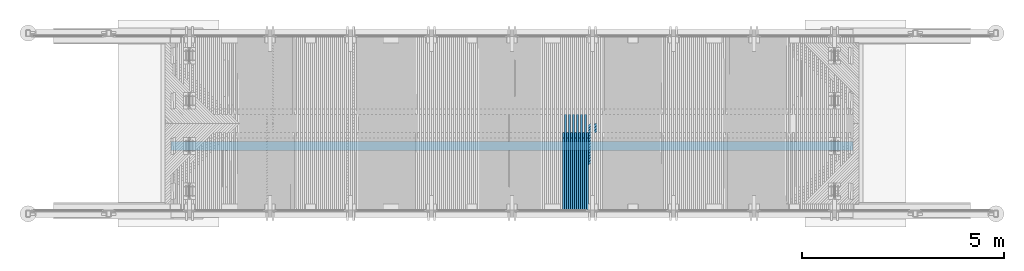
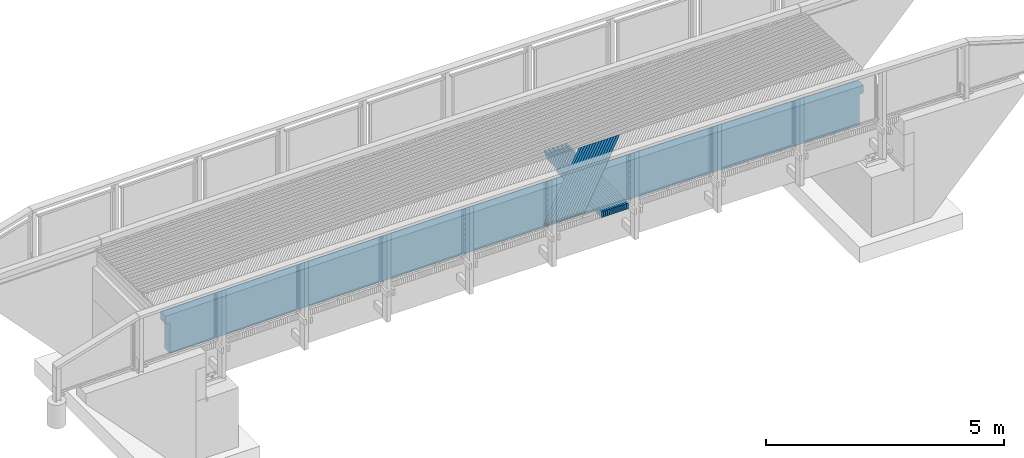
# One storey, part 31 of 65: 28 beams.
"""IFC2X3 building model written with IfcOpenShell, lengths in millimetres."""

import ifcopenshell
import ifcopenshell.guid

model = None  # the IFC model being written
_history = None  # IfcOwnerHistory: only IFC2X3 demands one
_inside = {}  # id of a spatial element -> (the spatial element, [elements in it])
_under = {}  # id of a project, library or spatial element -> (it, [spatial elements below it])
_declared = {}  # id of a project -> (the project, [libraries it declares])
_typed = {}  # id of a type object -> (the type object, [elements of that type])
_made_of = {}  # id of a material, layer set ... -> (it, [elements and type objects made of it])


def new_model(schema):
    """Start an empty IFC model of exactly this schema.

    Asked for "IFC4X3", IfcOpenShell would pick the latest addendum, in which some entities
    have other attributes; the version numbers below select the first issue.
    IFC2X3 requires an IfcOwnerHistory on every rooted entity: one is made here for all.
    """
    global model, _history
    if schema == "IFC4X3":
        model = ifcopenshell.file(schema_version=(4, 3, 0, 0))
    else:
        model = ifcopenshell.file(schema=schema)
    _inside.clear()
    _under.clear()
    _declared.clear()
    _typed.clear()
    _made_of.clear()
    _history = None
    if model.schema == "IFC2X3":
        org = make("IfcOrganization", Name="unknown")
        user = make(
            "IfcPersonAndOrganization",
            ThePerson=make("IfcPerson", FamilyName="unknown"),
            TheOrganization=org,
        )
        app = make(
            "IfcApplication",
            ApplicationDeveloper=org,
            Version="unknown",
            ApplicationFullName="unknown",
            ApplicationIdentifier="unknown",
        )
        _history = make(
            "IfcOwnerHistory",
            OwningUser=user,
            OwningApplication=app,
            ChangeAction="ADDED",
            CreationDate=0,
        )
    return model


def make(cls, **values):
    """One entity of the class cls with the attributes given. An attribute that is None is left unset."""
    return model.create_entity(
        cls, **{name: value for name, value in values.items() if value is not None}
    )


def rooted(cls, **values):
    """An entity with a GlobalId (a new one), such as an element, a storey or a relation."""
    return make(cls, GlobalId=ifcopenshell.guid.new(), OwnerHistory=_history, **values)


def si_unit(unit_type, name, prefix=None):
    """IfcSIUnit, for example si_unit("LENGTHUNIT", "METRE", prefix="MILLI")."""
    return make("IfcSIUnit", UnitType=unit_type, Prefix=prefix, Name=name)


def assignment(units):
    """IfcUnitAssignment: the units of a project."""
    return None if units is None else make("IfcUnitAssignment", Units=units)


def point(xyz):
    """IfcCartesianPoint."""
    return None if xyz is None else make("IfcCartesianPoint", Coordinates=xyz)


def direction(xyz):
    """IfcDirection."""
    return None if xyz is None else make("IfcDirection", DirectionRatios=xyz)


def frame(location, z_axis=None, x_axis=None):
    """IfcAxis2Placement3D, a coordinate frame: its origin and axes. An axis left out is left unset."""
    return make(
        "IfcAxis2Placement3D",
        Location=point(location),
        Axis=direction(z_axis),
        RefDirection=direction(x_axis),
    )


def origin_with_axes():
    """The frame at (0, 0, 0) with the z axis (0, 0, 1) and the x axis (1, 0, 0) written out."""
    return frame((0.0, 0.0, 0.0), z_axis=(0.0, 0.0, 1.0), x_axis=(1.0, 0.0, 0.0))


def place(relative_to, where):
    """IfcLocalPlacement: puts the frame where relative to a parent placement (None: the world)."""
    return make(
        "IfcLocalPlacement", PlacementRelTo=relative_to, RelativePlacement=where
    )


def context(
    kind, dimensions, precision=None, world=None, true_north=None, identifier=None
):
    """IfcGeometricRepresentationContext, for example the 3D "Model" context."""
    return make(
        "IfcGeometricRepresentationContext",
        ContextIdentifier=identifier,
        ContextType=kind,
        CoordinateSpaceDimension=dimensions,
        Precision=precision,
        WorldCoordinateSystem=world,
        TrueNorth=true_north,
    )


def subcontext(parent, identifier, kind, view, scale=None):
    """IfcGeometricRepresentationSubContext, for example "Body" below "Model"."""
    return make(
        "IfcGeometricRepresentationSubContext",
        ContextIdentifier=identifier,
        ContextType=kind,
        ParentContext=parent,
        TargetScale=scale,
        TargetView=view,
    )


def project(units=None, contexts=None):
    """IfcProject with its units and contexts."""
    return rooted(
        "IfcProject",
        Name="project",
        RepresentationContexts=contexts,
        UnitsInContext=assignment(units),
    )


def spatial(cls, under=None, at=None, **own):
    """A site, building, storey or space (cls), placed at a placement, below another one or the project."""
    s = rooted(cls, ObjectPlacement=at, **own)
    if under is not None:
        _under.setdefault(under.id(), (under, []))[1].append(s)
    return s


def faces_of(points, faces, orient=None, outer=None):
    """IfcFace entities. A face is a list of loops; a loop is a list of indices into points, from 0.

    orient and outer hold one flag for each loop. By default every Orientation is true, the
    first loop of a face is its IfcFaceOuterBound and the others are IfcFaceBound.
    """
    made = []
    for i, loops in enumerate(faces):
        bounds = []
        for j, loop in enumerate(loops):
            is_outer = j == 0 if outer is None else outer[i][j]
            bounds.append(
                make(
                    "IfcFaceOuterBound" if is_outer else "IfcFaceBound",
                    Bound=make("IfcPolyLoop", Polygon=[points[k] for k in loop]),
                    Orientation=True if orient is None else orient[i][j],
                )
            )
        made.append(make("IfcFace", Bounds=bounds))
    return made


def faceted_brep(points, faces, orient=None, outer=None, voids=None):
    """IfcFacetedBrep: a solid bounded by flat faces; with voids (closed shells), ...WithVoids."""
    shared = [point(p) for p in points]
    hull = make("IfcClosedShell", CfsFaces=faces_of(shared, faces, orient, outer))
    if voids is None:
        return make("IfcFacetedBrep", Outer=hull)
    return make(
        "IfcFacetedBrepWithVoids",
        Outer=hull,
        Voids=[
            make(cls, CfsFaces=faces_of(shared, fs, o, b)) for cls, fs, o, b in voids
        ],
    )


def shape(context_of_items, identifier, shape_type, items):
    """IfcShapeRepresentation: the items that make up one representation, for example the "Body"."""
    return make(
        "IfcShapeRepresentation",
        ContextOfItems=context_of_items,
        RepresentationIdentifier=identifier,
        RepresentationType=shape_type,
        Items=items,
    )


def material(Name=None, Category=None):
    """IfcMaterial."""
    return make("IfcMaterial", Name=Name, Category=Category)


def made_of(thing, what):
    """Note that an element or type object is made of a material, layer set ...; save() writes the relation."""
    if what is not None:
        _made_of.setdefault(what.id(), (what, []))[1].append(thing)
    return thing


def type_object(cls, material=None, **own):
    """A type object (cls), such as IfcWallType, which elements share."""
    return made_of(rooted(cls, **own), material)


def element(
    cls,
    number,
    at=None,
    inside=None,
    cuts=None,
    type_object=None,
    material=None,
    context=None,
    identifier="Body",
    shape_type=None,
    held_by="IfcProductDefinitionShape",
    body=None,
    shapes=None,
    **own,
):
    """One element of the class cls, such as IfcWall. Its Tag is "e" and its number.

    at: its placement. inside: the storey or other place that contains it. cuts: it is an
    opening in that element (IfcRelVoidsElement). A single representation is given by context,
    identifier, shape_type and body (its items); several are given by shapes. held_by: the class
    of the entity that holds the representations. save() writes the other relations.
    """
    e = rooted(cls, Tag="e%d" % number, ObjectPlacement=at, **own)
    if body is not None:
        shapes = [shape(context, identifier, shape_type, body)]
    if shapes is not None:
        e.Representation = make(held_by, Representations=shapes)
    if inside is not None:
        _inside.setdefault(inside.id(), (inside, []))[1].append(e)
    if cuts is not None:
        rooted(
            "IfcRelVoidsElement", RelatingBuildingElement=cuts, RelatedOpeningElement=e
        )
    if type_object is not None:
        _typed.setdefault(type_object.id(), (type_object, []))[1].append(e)
    return made_of(e, material)


def aggregate(whole, parts):
    """IfcRelAggregates: a whole, such as a stair, and the parts it consists of."""
    return rooted("IfcRelAggregates", RelatingObject=whole, RelatedObjects=parts)


def save(model, path):
    """Write the relations noted so far, then the file.

    IfcRelAggregates (storeys below a building ...), IfcRelContainedInSpatialStructure (elements
    in a storey), IfcRelDefinesByType, IfcRelAssociatesMaterial and IfcRelDeclares: one each for
    every whole, place, type object, material and project.
    """
    for whole, parts in _under.values():
        aggregate(whole, parts)
    for where, things in _inside.values():
        rooted(
            "IfcRelContainedInSpatialStructure",
            RelatedElements=things,
            RelatingStructure=where,
        )
    for kind, things in _typed.values():
        rooted("IfcRelDefinesByType", RelatedObjects=things, RelatingType=kind)
    for what, things in _made_of.values():
        rooted("IfcRelAssociatesMaterial", RelatedObjects=things, RelatingMaterial=what)
    for by, libraries in _declared.values():
        rooted("IfcRelDeclares", RelatingContext=by, RelatedDefinitions=libraries)
    model.write(path)


model = new_model("IFC2X3")

# Units and contexts
model_context = context("Model", 3, precision=1e-05, world=origin_with_axes())
body_context = subcontext(model_context, "Body", "Model", "MODEL_VIEW")
ifc_project = project(units=[si_unit("LENGTHUNIT", "METRE", prefix="MILLI"), si_unit("AREAUNIT", "SQUARE_METRE"), si_unit("VOLUMEUNIT", "CUBIC_METRE"), si_unit("MASSUNIT", "GRAM", prefix="KILO"), si_unit("TIMEUNIT", "SECOND"), si_unit("PLANEANGLEUNIT", "RADIAN"), si_unit("SOLIDANGLEUNIT", "STERADIAN"), si_unit("THERMODYNAMICTEMPERATUREUNIT", "DEGREE_CELSIUS"), si_unit("LUMINOUSINTENSITYUNIT", "LUMEN")], contexts=[model_context])

# Site, building, storey
site_placement = place(None, origin_with_axes())
site = spatial("IfcSite", under=ifc_project, at=site_placement, Name="Undefined", CompositionType="ELEMENT")
building_placement = place(site_placement, origin_with_axes())
building = spatial("IfcBuilding", under=site, at=building_placement, Name="Undefined", CompositionType="ELEMENT")
storey_placement = place(building_placement, origin_with_axes())
storey = spatial("IfcBuildingStorey", under=building, at=storey_placement, Name="Undefined", CompositionType="ELEMENT", Elevation=0.0)

# Beams
ifc_material = material(Name="TIMBER/Timber_Undefined")
beam_type_1 = type_object("IfcBeamType", Name="50*50", PredefinedType="NOTDEFINED")
for number, where, z_axis, x_axis, name in (
    (1, (10894.0405199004, 22364.5001003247, 3229.16691949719), (0.707044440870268, -0.706981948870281, -0.0162690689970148), (-0.707162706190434, -0.706948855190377, -0.0120092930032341), "BEAM"),
    (2, (10823.3170835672, 22364.5001003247, 3229.50270179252), (0.70704634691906, -0.706981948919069, -0.0161860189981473), (-0.707161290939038, -0.706948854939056, -0.0120923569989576), "BEAM"),
    (3, (10752.5936082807, 22364.5001003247, 3229.83017686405), (0.70704824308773, -0.706981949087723, -0.0161029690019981), (-0.707159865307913, -0.706948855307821, -0.0121754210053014), "BEAM"),
    (4, (10681.8700950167, 22364.5001003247, 3230.14934470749), (0.707050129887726, -0.706981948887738, -0.0160199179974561), (-0.707158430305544, -0.706948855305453, -0.0122584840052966), "BEAM"),
    (5, (10611.1465447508, 22364.5001003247, 3230.46020531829), (0.707052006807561, -0.70698194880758, -0.0159368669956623), (-0.707156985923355, -0.706948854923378, -0.0123415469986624), "BEAM"),
    (6, (10540.422958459, 22364.5001003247, 3230.76275869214), (0.707053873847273, -0.70698194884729, -0.0158538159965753), (-0.707155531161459, -0.706948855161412, -0.0124246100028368), "BEAM"),
    (7, (10469.6993371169, 22364.5001003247, 3231.05700482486), (0.707055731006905, -0.706981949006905, -0.0157707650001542), (-0.707154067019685, -0.706948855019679, -0.0125076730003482), "BEAM"),
    (8, (10398.9756817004, 22364.5001003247, 3231.34294371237), (0.707057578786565, -0.706981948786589, -0.0156877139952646), (-0.707152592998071, -0.706948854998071, -0.0125907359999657), "BEAM"),
    (9, (10328.2519931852, 22364.5001003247, 3231.62057535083), (0.707059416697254, -0.706981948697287, -0.0156046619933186), (-0.707151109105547, -0.706948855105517, -0.0126737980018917), "BEAM"),
    (10, (10257.5282725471, 22364.5001003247, 3231.88989973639), (0.707061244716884, -0.706981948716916, -0.0155216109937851), (-0.707149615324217, -0.706948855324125, -0.0127568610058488), "BEAM"),
    (11, (10186.8045207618, 22364.5001003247, 3232.15091686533), (0.707063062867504, -0.70698194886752, -0.0154385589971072), (-0.707148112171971, -0.706948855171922, -0.0128399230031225), "BEAM"),
    (12, (10116.0807388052, 22364.5001003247, 3232.40362673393), (0.707064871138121, -0.706981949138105, -0.0153555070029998), (-0.707146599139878, -0.706948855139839, -0.0129229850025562), "BEAM"),
    (13, (10045.356927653, 22364.5001003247, 3232.64802933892), (0.707066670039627, -0.706981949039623, -0.0152724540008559), (-0.707145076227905, -0.706948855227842, -0.0130060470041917), "BEAM"),
    (14, (9974.63308828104, 22364.5001003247, 3232.8841246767), (0.707068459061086, -0.706981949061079, -0.0151894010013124), (-0.707143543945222, -0.706948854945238, -0.0130891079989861), "BEAM"),
):
    element("IfcBeam", number, at=place(storey_placement, frame(where, z_axis=z_axis, x_axis=x_axis)), inside=storey, type_object=beam_type_1, material=ifc_material, Name=name, ObjectType="50*50", context=body_context, shape_type="Brep", body=[
        faceted_brep([(24.8942457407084, 25.0000000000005, -25.0000000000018), (-25.0086637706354, 24.9999999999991, 25.0), (2804.3406783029, 25.0, 25.0000000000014), (2854.34301907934, 24.9999999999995, -25.0), (-26.4222658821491, -25.0000000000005, 25.0), (2802.92643296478, -25.0, 25.0000000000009), (23.4806436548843, -24.9999999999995, -25.0000000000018), (2852.92877373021, -25.0000000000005, -24.9999999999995)], [[[0, 1, 2, 3]], [[1, 4, 5, 2]], [[4, 6, 7, 5]], [[6, 0, 3, 7]], [[5, 7, 3, 2]], [[6, 4, 1, 0]]]),
    ])
beam_type_2 = type_object("IfcBeamType", Name="150*50", PredefinedType="NOTDEFINED")
for number, where, z_axis, x_axis, name in (
    (15, (9875.54866800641, 20216.5046076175, 3090.22816959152), (0.00303469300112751, -0.0199960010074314, 0.999795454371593), (6.06930000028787e-05, 0.999800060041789, 0.0199959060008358), "BEAM"),
    (16, (9775.52909420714, 20216.5046076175, 3090.53149263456), (0.00286857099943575, -0.0199960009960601, 0.999795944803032), (5.73710000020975e-05, 0.999800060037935, 0.0199959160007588), "BEAM"),
):
    element("IfcBeam", number, at=place(storey_placement, frame(where, z_axis=z_axis, x_axis=x_axis)), inside=storey, type_object=beam_type_2, material=ifc_material, Name=name, ObjectType="150*50", context=body_context, shape_type="Brep", body=[
        faceted_brep([(-1.6778358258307e-07, -24.9999999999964, -74.9999999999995), (1.67790858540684e-07, -24.9999999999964, 75.0000000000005), (1.67790858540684e-07, 25.0000000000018, 74.9999999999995), (-1.6778358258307e-07, 25.0000000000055, -75.0), (1789.96936433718, -25.0000000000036, 74.9999999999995), (1789.96936408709, 24.9999999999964, 75.0), (1928.42646328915, 24.9999999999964, -75.0), (1928.42646353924, -25.0, -75.0000000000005)], [[[0, 1, 2, 3]], [[2, 1, 4, 5]], [[3, 2, 5, 6]], [[0, 3, 6, 7]], [[1, 0, 7, 4]], [[6, 5, 4, 7]]]),
    ])
beam_1_placement = place(storey_placement, frame((9825.54889674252, 20216.5046076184, 3090.37966862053), z_axis=(0.00303469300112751, -0.0199960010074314, 0.999795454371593), x_axis=(6.06930000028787e-05, 0.999800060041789, 0.0199959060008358)))
element("IfcBeam", 17, at=beam_1_placement, inside=storey, type_object=beam_type_2, material=ifc_material, Name="BEAM", ObjectType="150*50", context=body_context, shape_type="Brep", body=[
    faceted_brep([(-1.6778358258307e-07, -24.9999999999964, -74.9999999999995), (1.67790858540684e-07, -24.9999999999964, 75.0000000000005), (1.67790858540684e-07, 25.0000000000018, 74.9999999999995), (-1.6778358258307e-07, 25.0000000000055, -75.0), (2375.00494422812, 25.0000000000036, -75.0), (2375.00494447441, -24.9999999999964, -74.9999999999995), (2510.59248714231, -24.9999999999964, 60.5875430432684), (2150.42514405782, -24.9999999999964, 75.0000000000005), (2150.42515052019, 25.0000000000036, 74.9999999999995), (2510.59248715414, 25.0000000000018, 60.5875433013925)], [[[0, 1, 2, 3]], [[0, 3, 4, 5]], [[1, 0, 5, 6, 7]], [[2, 1, 7, 8]], [[4, 3, 2, 8, 9]], [[5, 4, 9, 6]], [[6, 9, 8, 7]]]),
])
beam_2_placement = place(storey_placement, frame((9675.50947138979, 20216.5046076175, 3090.81819688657), z_axis=(0.00270244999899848, -0.019996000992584, 0.999796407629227), x_axis=(5.40480000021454e-05, 0.999800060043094, 0.0199959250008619)))
element("IfcBeam", 18, at=beam_2_placement, inside=storey, type_object=beam_type_2, material=ifc_material, Name="BEAM", ObjectType="150*50", context=body_context, shape_type="Brep", body=[
    faceted_brep([(-1.6778358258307e-07, -24.9999999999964, -74.9999999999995), (1.67790858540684e-07, -24.9999999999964, 75.0000000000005), (1.67790858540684e-07, 25.0000000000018, 74.9999999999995), (-1.6778358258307e-07, 25.0000000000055, -75.0), (1789.96936433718, -25.0000000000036, 74.9999999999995), (1789.96936408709, 24.9999999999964, 75.0), (1928.42646328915, 24.9999999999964, -75.0), (1928.42646353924, -25.0, -75.0000000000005)], [[[0, 1, 2, 3]], [[2, 1, 4, 5]], [[3, 2, 5, 6]], [[0, 3, 6, 7]], [[1, 0, 7, 4]], [[6, 5, 4, 7]]]),
])
beam_3_placement = place(storey_placement, frame((9725.52929846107, 20216.5046076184, 3090.67468393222), z_axis=(0.00286857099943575, -0.0199960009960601, 0.999795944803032), x_axis=(5.73710000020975e-05, 0.999800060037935, 0.0199959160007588)))
element("IfcBeam", 19, at=beam_3_placement, inside=storey, type_object=beam_type_2, material=ifc_material, Name="BEAM", ObjectType="150*50", context=body_context, shape_type="Brep", body=[
    faceted_brep([(-1.6778358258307e-07, -24.9999999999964, -74.9999999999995), (1.67790858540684e-07, -24.9999999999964, 75.0000000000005), (1.67790858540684e-07, 25.0000000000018, 74.9999999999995), (-1.6778358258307e-07, 25.0000000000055, -75.0), (2375.00494422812, 25.0000000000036, -75.0), (2375.00494447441, -24.9999999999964, -74.9999999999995), (2510.59248714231, -24.9999999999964, 60.5875430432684), (2150.42514405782, -24.9999999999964, 75.0000000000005), (2150.42515052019, 25.0000000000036, 74.9999999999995), (2510.59248715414, 25.0000000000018, 60.5875433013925)], [[[0, 1, 2, 3]], [[0, 3, 4, 5]], [[1, 0, 5, 6, 7]], [[2, 1, 7, 8]], [[4, 3, 2, 8, 9]], [[5, 4, 9, 6]], [[6, 9, 8, 7]]]),
])
beam_4_placement = place(storey_placement, frame((9575.48980231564, 20216.5046076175, 3091.08828233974), z_axis=(0.0025363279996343, -0.0199960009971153, 0.999796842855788), x_axis=(5.07260000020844e-05, 0.999800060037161, 0.0199959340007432)))
element("IfcBeam", 20, at=beam_4_placement, inside=storey, type_object=beam_type_2, material=ifc_material, Name="BEAM", ObjectType="150*50", context=body_context, shape_type="Brep", body=[
    faceted_brep([(-1.6778358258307e-07, -24.9999999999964, -74.9999999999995), (1.67790858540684e-07, -24.9999999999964, 75.0000000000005), (1.67790858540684e-07, 25.0000000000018, 74.9999999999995), (-1.6778358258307e-07, 25.0000000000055, -75.0), (1789.96936433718, -25.0000000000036, 74.9999999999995), (1789.96936408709, 24.9999999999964, 75.0), (1928.42646328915, 24.9999999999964, -75.0), (1928.42646353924, -25.0, -75.0000000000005)], [[[0, 1, 2, 3]], [[2, 1, 4, 5]], [[3, 2, 5, 6]], [[0, 3, 6, 7]], [[1, 0, 7, 4]], [[6, 5, 4, 7]]]),
])
beam_5_placement = place(storey_placement, frame((9625.5096525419, 20216.5046076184, 3090.9530804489), z_axis=(0.00270244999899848, -0.019996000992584, 0.999796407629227), x_axis=(5.40480000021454e-05, 0.999800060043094, 0.0199959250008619)))
element("IfcBeam", 21, at=beam_5_placement, inside=storey, type_object=beam_type_2, material=ifc_material, Name="BEAM", ObjectType="150*50", context=body_context, shape_type="Brep", body=[
    faceted_brep([(-1.6778358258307e-07, -24.9999999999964, -74.9999999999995), (1.67790858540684e-07, -24.9999999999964, 75.0000000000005), (1.67790858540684e-07, 25.0000000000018, 74.9999999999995), (-1.6778358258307e-07, 25.0000000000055, -75.0), (2375.00494422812, 25.0000000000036, -75.0), (2375.00494447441, -24.9999999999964, -74.9999999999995), (2510.59248714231, -24.9999999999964, 60.5875430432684), (2150.42514405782, -24.9999999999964, 75.0000000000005), (2150.42515052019, 25.0000000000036, 74.9999999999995), (2510.59248715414, 25.0000000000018, 60.5875433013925)], [[[0, 1, 2, 3]], [[0, 3, 4, 5]], [[1, 0, 5, 6, 7]], [[2, 1, 7, 8]], [[4, 3, 2, 8, 9]], [[5, 4, 9, 6]], [[6, 9, 8, 7]]]),
])
beam_6_placement = place(storey_placement, frame((9475.470089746, 20216.5046076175, 3091.34174898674), z_axis=(0.00237020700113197, -0.0199960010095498, 0.999797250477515), x_axis=(4.74040000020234e-05, 0.999800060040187, 0.0199959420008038)))
element("IfcBeam", 22, at=beam_6_placement, inside=storey, type_object=beam_type_2, material=ifc_material, Name="BEAM", ObjectType="150*50", context=body_context, shape_type="Brep", body=[
    faceted_brep([(-1.6778358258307e-07, -24.9999999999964, -74.9999999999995), (1.67790858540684e-07, -24.9999999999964, 75.0000000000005), (1.67790858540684e-07, 25.0000000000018, 74.9999999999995), (-1.6778358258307e-07, 25.0000000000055, -75.0), (1789.96936433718, -25.0000000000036, 74.9999999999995), (1789.96936408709, 24.9999999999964, 75.0), (1928.42646328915, 24.9999999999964, -75.0), (1928.42646353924, -25.0, -75.0000000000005)], [[[0, 1, 2, 3]], [[2, 1, 4, 5]], [[3, 2, 5, 6]], [[0, 3, 6, 7]], [[1, 0, 7, 4]], [[6, 5, 4, 7]]]),
])
beam_7_placement = place(storey_placement, frame((9525.48996174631, 20216.5046076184, 3091.21485816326), z_axis=(0.0025363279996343, -0.0199960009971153, 0.999796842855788), x_axis=(5.07260000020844e-05, 0.999800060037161, 0.0199959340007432)))
element("IfcBeam", 23, at=beam_7_placement, inside=storey, type_object=beam_type_2, material=ifc_material, Name="BEAM", ObjectType="150*50", context=body_context, shape_type="Brep", body=[
    faceted_brep([(-1.6778358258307e-07, -24.9999999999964, -74.9999999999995), (1.67790858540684e-07, -24.9999999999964, 75.0000000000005), (1.67790858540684e-07, 25.0000000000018, 74.9999999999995), (-1.6778358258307e-07, 25.0000000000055, -75.0), (2375.00494422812, 25.0000000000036, -75.0), (2375.00494447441, -24.9999999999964, -74.9999999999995), (2510.59248714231, -24.9999999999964, 60.5875430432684), (2150.42514405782, -24.9999999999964, 75.0000000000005), (2150.42515052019, 25.0000000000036, 74.9999999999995), (2510.59248715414, 25.0000000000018, 60.5875433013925)], [[[0, 1, 2, 3]], [[0, 3, 4, 5]], [[1, 0, 5, 6, 7]], [[2, 1, 7, 8]], [[4, 3, 2, 8, 9]], [[5, 4, 9, 6]], [[6, 9, 8, 7]]]),
])
beam_8_placement = place(storey_placement, frame((9375.45033644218, 20216.5046076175, 3091.57859682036), z_axis=(0.00220408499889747, -0.0199960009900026, 0.999797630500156), x_axis=(4.4081000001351e-05, 0.999800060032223, 0.0199959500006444)))
element("IfcBeam", 24, at=beam_8_placement, inside=storey, type_object=beam_type_2, material=ifc_material, Name="BEAM", ObjectType="150*50", context=body_context, shape_type="Brep", body=[
    faceted_brep([(-1.6778358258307e-07, -24.9999999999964, -74.9999999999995), (1.67790858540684e-07, -24.9999999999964, 75.0000000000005), (1.67790858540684e-07, 25.0000000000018, 74.9999999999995), (-1.6778358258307e-07, 25.0000000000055, -75.0), (1789.96936433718, -25.0000000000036, 74.9999999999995), (1789.96936408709, 24.9999999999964, 75.0), (1928.42646328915, 24.9999999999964, -75.0), (1928.42646353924, -25.0, -75.0000000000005)], [[[0, 1, 2, 3]], [[2, 1, 4, 5]], [[3, 2, 5, 6]], [[0, 3, 6, 7]], [[1, 0, 7, 4]], [[6, 5, 4, 7]]]),
])
beam_9_placement = place(storey_placement, frame((9425.47022883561, 20216.5046076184, 3091.46001706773), z_axis=(0.00237020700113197, -0.0199960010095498, 0.999797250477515), x_axis=(4.74040000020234e-05, 0.999800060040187, 0.0199959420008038)))
element("IfcBeam", 25, at=beam_9_placement, inside=storey, type_object=beam_type_2, material=ifc_material, Name="BEAM", ObjectType="150*50", context=body_context, shape_type="Brep", body=[
    faceted_brep([(-1.6778358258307e-07, -24.9999999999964, -74.9999999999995), (1.67790858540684e-07, -24.9999999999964, 75.0000000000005), (1.67790858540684e-07, 25.0000000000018, 74.9999999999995), (-1.6778358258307e-07, 25.0000000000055, -75.0), (2375.00494422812, 25.0000000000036, -75.0), (2375.00494447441, -24.9999999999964, -74.9999999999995), (2510.59248714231, -24.9999999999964, 60.5875430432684), (2150.42514405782, -24.9999999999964, 75.0000000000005), (2150.42515052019, 25.0000000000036, 74.9999999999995), (2510.59248715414, 25.0000000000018, 60.5875433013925)], [[[0, 1, 2, 3]], [[0, 3, 4, 5]], [[1, 0, 5, 6, 7]], [[2, 1, 7, 8]], [[4, 3, 2, 8, 9]], [[5, 4, 9, 6]], [[6, 9, 8, 7]]]),
])
beam_10_placement = place(storey_placement, frame((9275.43054516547, 20216.5046076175, 3091.79882583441), z_axis=(0.00203796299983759, -0.0199960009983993, 0.999797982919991), x_axis=(4.07590000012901e-05, 0.999800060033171, 0.0199959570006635)))
element("IfcBeam", 26, at=beam_10_placement, inside=storey, type_object=beam_type_2, material=ifc_material, Name="BEAM", ObjectType="150*50", context=body_context, shape_type="Brep", body=[
    faceted_brep([(-1.6778358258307e-07, -24.9999999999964, -74.9999999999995), (1.67790858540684e-07, -24.9999999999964, 75.0000000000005), (1.67790858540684e-07, 25.0000000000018, 74.9999999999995), (-1.6778358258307e-07, 25.0000000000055, -75.0), (1789.96936433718, -25.0000000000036, 74.9999999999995), (1789.96936408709, 24.9999999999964, 75.0), (1928.42646328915, 24.9999999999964, -75.0), (1928.42646353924, -25.0, -75.0000000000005)], [[[0, 1, 2, 3]], [[2, 1, 4, 5]], [[3, 2, 5, 6]], [[0, 3, 6, 7]], [[1, 0, 7, 4]], [[6, 5, 4, 7]]]),
])
beam_11_placement = place(storey_placement, frame((9325.4504565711, 20216.5046076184, 3091.68855715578), z_axis=(0.00220408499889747, -0.0199960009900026, 0.999797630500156), x_axis=(4.4081000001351e-05, 0.999800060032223, 0.0199959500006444)))
element("IfcBeam", 27, at=beam_11_placement, inside=storey, type_object=beam_type_2, material=ifc_material, Name="BEAM", ObjectType="150*50", context=body_context, shape_type="Brep", body=[
    faceted_brep([(-1.6778358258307e-07, -24.9999999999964, -74.9999999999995), (1.67790858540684e-07, -24.9999999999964, 75.0000000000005), (1.67790858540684e-07, 25.0000000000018, 74.9999999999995), (-1.6778358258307e-07, 25.0000000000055, -75.0), (2375.00494422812, 25.0000000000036, -75.0), (2375.00494447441, -24.9999999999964, -74.9999999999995), (2510.59248714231, -24.9999999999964, 60.5875430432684), (2150.42520082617, -25.0000000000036, 75.0000000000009), (2150.42515052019, 25.0000000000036, 74.9999999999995), (2510.59248715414, 25.0000000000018, 60.5875433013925)], [[[0, 1, 2, 3]], [[0, 3, 4, 5]], [[1, 0, 5, 6, 7]], [[2, 1, 7, 8]], [[4, 3, 2, 8, 9]], [[5, 4, 9, 6]], [[8, 7, 6, 9]]]),
])
beam_type_3 = type_object("IfcBeamType", Name="990*215", PredefinedType="NOTDEFINED")
beam_12_placement = place(storey_placement, frame((243.613169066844, 21805.0, 2502.11879463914), z_axis=(0.0, 0.0, 1.0), x_axis=(1.0, 0.0, 0.0)))
element("IfcBeam", 28, at=beam_12_placement, inside=storey, type_object=beam_type_3, material=ifc_material, Name="PALKKI", ObjectType="990*215", context=body_context, shape_type="Brep", body=[
    faceted_brep([(16106.3868309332, 107.5, -494.790894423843), (16106.3868309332, -107.5, -494.790894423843), (16080.5342107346, -107.5, -494.790894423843), (15793.4597682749, -107.5, -494.790894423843), (15506.3868309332, -107.5, -494.958794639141), (15506.3868309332, 107.5, -494.958794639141), (15793.4597682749, 107.5, -494.790894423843), (16080.5342107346, 107.5, -494.790894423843), (16106.3868309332, 107.5, 285.209105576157), (16106.3868309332, -107.5, 285.209105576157), (16206.3868309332, 107.5, 285.209105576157), (16206.3868309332, -107.5, 285.209105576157), (16206.3868309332, 107.5, 485.682039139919), (16206.3868309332, -107.5, 485.682039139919), (-627.370013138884, 107.5, 486.625216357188), (-627.370013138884, -107.5, 486.625216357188), (-316.879497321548, -107.5, 490.87213125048), (-316.879497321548, 107.5, 490.87213125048), (-693.613169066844, -107.5, 485.684940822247), (-693.613169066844, -107.5, 285.209105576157), (-624.563039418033, -107.5, 285.209105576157), (-693.613169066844, 107.5, 485.684940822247), (-693.613169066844, 107.5, 285.209105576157), (-624.563039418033, 107.5, 285.209105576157), (-593.613169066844, 107.5, 285.209105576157), (-593.613169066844, -107.5, 285.209105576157), (-593.613169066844, 107.5, -494.790894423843), (-593.613169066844, -107.5, -494.790894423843), (-303.651924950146, -107.5, -494.790894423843), (-6.38683093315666, -107.5, 494.958794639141), (6.38683093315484, -107.5, -494.958794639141), (-6.38683093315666, 107.5, 494.958794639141), (6.38683093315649, 107.5, -494.790894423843), (304.107903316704, 107.5, 498.885205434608), (316.370645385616, 107.5, -491.038844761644), (-303.651924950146, 107.5, -494.790894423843), (316.370645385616, -107.5, -491.038844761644), (304.107903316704, -107.5, 498.885205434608), (614.604622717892, -107.5, 502.651362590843), (614.604622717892, 107.5, 502.651362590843), (626.356441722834, 107.5, -487.278884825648), (626.356441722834, -107.5, -487.278884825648), (936.344137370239, -107.5, -483.678915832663), (925.103244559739, -107.5, 506.257265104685), (925.103244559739, 107.5, 506.257265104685), (936.344137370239, 107.5, -483.678915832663), (1246.33364975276, 107.5, -480.238938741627), (1246.33364975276, -107.5, -480.238938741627), (1235.60368613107, -107.5, 509.702912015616), (1235.60368613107, 107.5, 509.702912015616), (1546.10586472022, 107.5, 512.988302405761), (1556.32489629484, 107.5, -476.958954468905), (1556.32489629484, -107.5, -476.958954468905), (1546.10586472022, -107.5, 512.988302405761), (1856.60969761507, -107.5, 516.113435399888), (1856.60969761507, 107.5, 516.113435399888), (1866.31779442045, 107.5, -473.838963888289), (1866.31779442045, -107.5, -473.838963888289), (2176.31226155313, -107.5, -470.878967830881), (2167.11510210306, -107.5, 519.078310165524), (2167.11510210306, 107.5, 519.078310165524), (2176.31226155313, 107.5, -470.878967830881), (2486.30821511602, 107.5, -468.078967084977), (2486.30821511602, -107.5, -468.078967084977), (2477.6219954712, -107.5, 521.882925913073), (2477.6219954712, 107.5, 521.882925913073), (2788.13029500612, 107.5, 524.527281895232), (2796.30557253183, 107.5, -465.438962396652), (2796.30557253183, -107.5, -465.438962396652), (2788.13029500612, -107.5, 524.527281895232), (3098.63991799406, -107.5, 527.011377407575), (3098.63991799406, 107.5, 527.011377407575), (3106.30425122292, 107.5, -462.958954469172), (3106.30425122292, -107.5, -462.958954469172), (3416.30416861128, -107.5, -460.638943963), (3409.15078172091, -107.5, 529.335211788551), (3409.15078172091, 107.5, 529.335211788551), (3416.30416861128, 107.5, -460.638943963), (3726.30524211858, 107.5, -458.478931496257), (3726.30524211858, -107.5, -458.478931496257), (3719.66280347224, -107.5, 531.49878441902), (3719.66280347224, 107.5, 531.49878441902), (4030.1759005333, 107.5, 533.502094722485), (4036.3073891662, 107.5, -456.478917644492), (4036.3073891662, -107.5, -456.478917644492), (4030.1759005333, -107.5, 533.502094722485), (4340.68999018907, -107.5, 535.345142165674), (4340.68999018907, 107.5, 535.345142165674), (4346.3105271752, 107.5, -454.638902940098), (4346.3105271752, -107.5, -454.638902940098), (4656.31457356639, -107.5, -452.958887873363), (4651.20498972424, -107.5, 537.027926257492), (4651.20498972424, 107.5, 537.027926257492), (4656.31457356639, 107.5, -452.958887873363), (4966.31944576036, 107.5, -451.438872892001), (4966.31944576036, -107.5, -451.438872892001), (4961.72081642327, -107.5, 538.550446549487), (4961.72081642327, 107.5, 538.550446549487), (5272.23738757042, 107.5, 539.912702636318), (5276.32506117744, 107.5, -450.078858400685), (5276.32506117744, -107.5, -450.078858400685), (5272.23738757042, -107.5, 539.912702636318), (5582.75462044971, -107.5, 541.114694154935), (5582.75462044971, 107.5, 541.114694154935), (5586.33133723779, 107.5, -448.878844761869), (5586.33133723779, -107.5, -448.878844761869), (5896.33819136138, -107.5, -447.838832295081), (5893.27243234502, -107.5, 542.156420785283), (5893.27243234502, 107.5, 542.156420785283), (5896.33819136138, 107.5, -447.838832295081), (6206.34554096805, 107.5, -446.958821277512), (6206.34554096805, -107.5, -446.958821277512), (6203.79074054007, -107.5, 543.037882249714), (6203.79074054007, 107.5, 543.037882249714), (6514.30946231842, 107.5, 543.759078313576), (6516.35330347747, 107.5, -446.238811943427), (6516.35330347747, -107.5, -446.238811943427), (6514.30946231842, -107.5, 543.759078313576), (6824.82851496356, -107.5, 544.320008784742), (6824.82851496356, 107.5, 544.320008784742), (6826.36139630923, 107.5, -445.678804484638), (6826.36139630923, -107.5, -445.678804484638), (7136.36973688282, -107.5, -445.278799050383), (7135.34781575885, -107.5, 544.720673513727), (7135.34781575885, 107.5, 544.720673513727), (7136.36973688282, 107.5, -445.278799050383), (7446.37824261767, 107.5, -445.038795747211), (7446.37824261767, -107.5, -445.038795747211), (7445.86728198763, -107.5, 544.961072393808), (7445.86728198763, 107.5, 544.961072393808), (7756.38683093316, 107.5, 545.041205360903), (7756.38683093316, 107.5, -444.958794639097), (7756.38683093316, -107.5, -444.958794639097), (7756.38683093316, -107.5, 545.041205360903), (8066.90637987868, -107.5, 544.961072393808), (8066.90637987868, 107.5, 544.961072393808), (8066.39541924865, 107.5, -445.038795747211), (8066.39541924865, -107.5, -445.038795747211), (8376.40392498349, -107.5, -445.278799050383), (8377.42584610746, -107.5, 544.720673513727), (8377.42584610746, 107.5, 544.720673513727), (8376.40392498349, 107.5, -445.278799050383), (8686.41226555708, 107.5, -445.678804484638), (8686.41226555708, -107.5, -445.678804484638), (8687.94514690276, -107.5, 544.320008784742), (8687.94514690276, 107.5, 544.320008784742), (8998.46419954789, 107.5, 543.759078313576), (8996.42035838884, 107.5, -446.238811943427), (8996.42035838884, -107.5, -446.238811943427), (8998.46419954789, -107.5, 543.759078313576), (9308.98292132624, -107.5, 543.037882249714), (9308.98292132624, 107.5, 543.037882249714), (9306.42812089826, 107.5, -446.958821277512), (9306.42812089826, -107.5, -446.958821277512), (9616.43547050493, -107.5, -447.838832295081), (9619.50122952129, -107.5, 542.156420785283), (9619.50122952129, 107.5, 542.156420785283), (9616.43547050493, 107.5, -447.838832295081), (9926.44232462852, 107.5, -448.878844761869), (9926.44232462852, -107.5, -448.878844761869), (9930.0190414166, -107.5, 541.114694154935), (9930.0190414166, 107.5, 541.114694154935), (10240.5362742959, 107.5, 539.912702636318), (10236.4486006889, 107.5, -450.078858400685), (10236.4486006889, -107.5, -450.078858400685), (10240.5362742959, -107.5, 539.912702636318), (10551.052845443, -107.5, 538.550446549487), (10551.052845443, 107.5, 538.550446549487), (10546.454216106, 107.5, -451.438872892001), (10546.454216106, -107.5, -451.438872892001), (10856.4590882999, -107.5, -452.958887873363), (10861.5686721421, -107.5, 537.027926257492), (10861.5686721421, 107.5, 537.027926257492), (10856.4590882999, 107.5, -452.958887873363), (11166.4631346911, 107.5, -454.638902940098), (11166.4631346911, -107.5, -454.638902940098), (11172.0836716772, -107.5, 535.345142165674), (11172.0836716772, 107.5, 535.345142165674), (11482.597761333, 107.5, 533.502094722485), (11476.4662727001, 107.5, -456.478917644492), (11476.4662727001, -107.5, -456.478917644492), (11482.597761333, -107.5, 533.502094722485), (11793.1108583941, -107.5, 531.49878441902), (11793.1108583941, 107.5, 531.49878441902), (11786.4684197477, 107.5, -458.478931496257), (11786.4684197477, -107.5, -458.478931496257), (12096.469493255, -107.5, -460.638943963), (12103.6228801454, -107.5, 529.335211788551), (12103.6228801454, 107.5, 529.335211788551), (12096.469493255, 107.5, -460.638943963), (12406.4694106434, 107.5, -462.958954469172), (12406.4694106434, -107.5, -462.958954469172), (12414.1337438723, -107.5, 527.011377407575), (12414.1337438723, 107.5, 527.011377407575), (12724.6433668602, 107.5, 524.527281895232), (12716.4680893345, 107.5, -465.438962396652), (12716.4680893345, -107.5, -465.438962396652), (12724.6433668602, -107.5, 524.527281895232), (13035.1516663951, -107.5, 521.882925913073), (13035.1516663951, 107.5, 521.882925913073), (13026.4654467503, 107.5, -468.078967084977), (13026.4654467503, -107.5, -468.078967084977), (13336.4614003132, -107.5, -470.878967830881), (13345.6585597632, -107.5, 519.078310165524), (13345.6585597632, 107.5, 519.078310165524), (13336.4614003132, 107.5, -470.878967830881), (13646.4558674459, 107.5, -473.838963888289), (13646.4558674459, -107.5, -473.838963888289), (13656.1639642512, -107.5, 516.113435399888), (13656.1639642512, 107.5, 516.113435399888), (13966.6677971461, 107.5, 512.988302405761), (13956.4487655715, 107.5, -476.958954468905), (13956.4487655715, -107.5, -476.958954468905), (13966.6677971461, -107.5, 512.988302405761), (14277.1699757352, -107.5, 509.702912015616), (14277.1699757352, 107.5, 509.702912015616), (14266.4400121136, 107.5, -480.238938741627), (14266.4400121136, -107.5, -480.238938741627), (14576.4295244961, -107.5, -483.678915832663), (14587.6704173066, -107.5, 506.257265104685), (14587.6704173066, 107.5, 506.257265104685), (14576.4295244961, 107.5, -483.678915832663), (14886.4172201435, 107.5, -487.278884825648), (14886.4172201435, -107.5, -487.278884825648), (14898.1690391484, -107.5, 502.651362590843), (14898.1690391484, 107.5, 502.651362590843), (15208.6657585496, 107.5, 498.885205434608), (15196.4030164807, 107.5, -491.038844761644), (15196.4030164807, -107.5, -491.038844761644), (15208.6657585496, -107.5, 498.885205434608), (15519.1604927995, -107.5, 494.958794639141), (15519.1604927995, 107.5, 494.958794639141), (15806.6537751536, -107.5, 491.180342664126), (15806.6537751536, 107.5, 491.180342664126), (16094.1452189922, -107.5, 487.264500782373), (16094.1452189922, 107.5, 487.264500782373)], [[[0, 1, 2, 3, 4, 5, 6, 7]], [[8, 9, 1, 0]], [[10, 11, 9, 8]], [[12, 13, 11, 10]], [[14, 15, 16, 17]], [[15, 18, 19, 20]], [[21, 22, 19, 18]], [[15, 14, 21, 18]], [[21, 14, 23, 22]], [[24, 25, 20, 19, 22, 23]], [[26, 27, 25, 24]], [[16, 15, 20, 25, 27, 28]], [[29, 16, 28, 30]], [[17, 16, 29, 31]], [[32, 31, 33, 34]], [[17, 31, 32, 35]], [[24, 23, 14, 17, 35, 26]], [[32, 30, 28, 27, 26, 35]], [[34, 36, 30, 32]], [[29, 30, 36, 37]], [[31, 29, 37, 33]], [[33, 37, 38, 39]], [[34, 33, 39, 40]], [[36, 34, 40, 41]], [[37, 36, 41, 38]], [[38, 41, 42, 43]], [[39, 38, 43, 44]], [[40, 39, 44, 45]], [[41, 40, 45, 42]], [[42, 45, 46, 47]], [[43, 42, 47, 48]], [[44, 43, 48, 49]], [[45, 44, 49, 46]], [[46, 49, 50, 51]], [[47, 46, 51, 52]], [[48, 47, 52, 53]], [[49, 48, 53, 50]], [[50, 53, 54, 55]], [[51, 50, 55, 56]], [[52, 51, 56, 57]], [[53, 52, 57, 54]], [[54, 57, 58, 59]], [[55, 54, 59, 60]], [[56, 55, 60, 61]], [[57, 56, 61, 58]], [[58, 61, 62, 63]], [[59, 58, 63, 64]], [[60, 59, 64, 65]], [[61, 60, 65, 62]], [[62, 65, 66, 67]], [[63, 62, 67, 68]], [[64, 63, 68, 69]], [[65, 64, 69, 66]], [[66, 69, 70, 71]], [[67, 66, 71, 72]], [[68, 67, 72, 73]], [[69, 68, 73, 70]], [[70, 73, 74, 75]], [[71, 70, 75, 76]], [[72, 71, 76, 77]], [[73, 72, 77, 74]], [[74, 77, 78, 79]], [[75, 74, 79, 80]], [[76, 75, 80, 81]], [[77, 76, 81, 78]], [[78, 81, 82, 83]], [[79, 78, 83, 84]], [[80, 79, 84, 85]], [[81, 80, 85, 82]], [[82, 85, 86, 87]], [[83, 82, 87, 88]], [[84, 83, 88, 89]], [[85, 84, 89, 86]], [[86, 89, 90, 91]], [[87, 86, 91, 92]], [[88, 87, 92, 93]], [[89, 88, 93, 90]], [[90, 93, 94, 95]], [[91, 90, 95, 96]], [[92, 91, 96, 97]], [[93, 92, 97, 94]], [[94, 97, 98, 99]], [[95, 94, 99, 100]], [[96, 95, 100, 101]], [[97, 96, 101, 98]], [[98, 101, 102, 103]], [[99, 98, 103, 104]], [[100, 99, 104, 105]], [[101, 100, 105, 102]], [[102, 105, 106, 107]], [[103, 102, 107, 108]], [[104, 103, 108, 109]], [[105, 104, 109, 106]], [[106, 109, 110, 111]], [[107, 106, 111, 112]], [[108, 107, 112, 113]], [[109, 108, 113, 110]], [[110, 113, 114, 115]], [[111, 110, 115, 116]], [[112, 111, 116, 117]], [[113, 112, 117, 114]], [[114, 117, 118, 119]], [[115, 114, 119, 120]], [[116, 115, 120, 121]], [[117, 116, 121, 118]], [[118, 121, 122, 123]], [[119, 118, 123, 124]], [[120, 119, 124, 125]], [[121, 120, 125, 122]], [[122, 125, 126, 127]], [[123, 122, 127, 128]], [[124, 123, 128, 129]], [[125, 124, 129, 126]], [[126, 129, 130, 131]], [[127, 126, 131, 132]], [[128, 127, 132, 133]], [[129, 128, 133, 130]], [[130, 133, 134, 135]], [[131, 130, 135, 136]], [[132, 131, 136, 137]], [[133, 132, 137, 134]], [[134, 137, 138, 139]], [[135, 134, 139, 140]], [[136, 135, 140, 141]], [[137, 136, 141, 138]], [[138, 141, 142, 143]], [[139, 138, 143, 144]], [[140, 139, 144, 145]], [[141, 140, 145, 142]], [[142, 145, 146, 147]], [[143, 142, 147, 148]], [[144, 143, 148, 149]], [[145, 144, 149, 146]], [[146, 149, 150, 151]], [[147, 146, 151, 152]], [[148, 147, 152, 153]], [[149, 148, 153, 150]], [[150, 153, 154, 155]], [[151, 150, 155, 156]], [[152, 151, 156, 157]], [[153, 152, 157, 154]], [[154, 157, 158, 159]], [[155, 154, 159, 160]], [[156, 155, 160, 161]], [[157, 156, 161, 158]], [[158, 161, 162, 163]], [[159, 158, 163, 164]], [[160, 159, 164, 165]], [[161, 160, 165, 162]], [[162, 165, 166, 167]], [[163, 162, 167, 168]], [[164, 163, 168, 169]], [[165, 164, 169, 166]], [[166, 169, 170, 171]], [[167, 166, 171, 172]], [[168, 167, 172, 173]], [[169, 168, 173, 170]], [[170, 173, 174, 175]], [[171, 170, 175, 176]], [[172, 171, 176, 177]], [[173, 172, 177, 174]], [[174, 177, 178, 179]], [[175, 174, 179, 180]], [[176, 175, 180, 181]], [[177, 176, 181, 178]], [[178, 181, 182, 183]], [[179, 178, 183, 184]], [[180, 179, 184, 185]], [[181, 180, 185, 182]], [[182, 185, 186, 187]], [[183, 182, 187, 188]], [[184, 183, 188, 189]], [[185, 184, 189, 186]], [[186, 189, 190, 191]], [[187, 186, 191, 192]], [[188, 187, 192, 193]], [[189, 188, 193, 190]], [[190, 193, 194, 195]], [[191, 190, 195, 196]], [[192, 191, 196, 197]], [[193, 192, 197, 194]], [[194, 197, 198, 199]], [[195, 194, 199, 200]], [[196, 195, 200, 201]], [[197, 196, 201, 198]], [[198, 201, 202, 203]], [[199, 198, 203, 204]], [[200, 199, 204, 205]], [[201, 200, 205, 202]], [[202, 205, 206, 207]], [[203, 202, 207, 208]], [[204, 203, 208, 209]], [[205, 204, 209, 206]], [[206, 209, 210, 211]], [[207, 206, 211, 212]], [[208, 207, 212, 213]], [[209, 208, 213, 210]], [[210, 213, 214, 215]], [[211, 210, 215, 216]], [[212, 211, 216, 217]], [[213, 212, 217, 214]], [[214, 217, 218, 219]], [[215, 214, 219, 220]], [[216, 215, 220, 221]], [[217, 216, 221, 218]], [[218, 221, 222, 223]], [[219, 218, 223, 224]], [[220, 219, 224, 225]], [[221, 220, 225, 222]], [[222, 225, 226, 227]], [[223, 222, 227, 228]], [[224, 223, 228, 229]], [[225, 224, 229, 226]], [[226, 229, 230, 231]], [[231, 230, 232, 233]], [[233, 232, 234, 235]], [[8, 0, 7, 235, 12, 10]], [[233, 235, 7, 6]], [[231, 233, 6, 5]], [[227, 226, 231, 5]], [[228, 227, 5, 4]], [[229, 228, 4, 230]], [[232, 230, 4, 3]], [[234, 232, 3, 2]], [[234, 2, 1, 9, 11, 13]], [[235, 234, 13, 12]]]),
])

save(model, "model.ifc")
